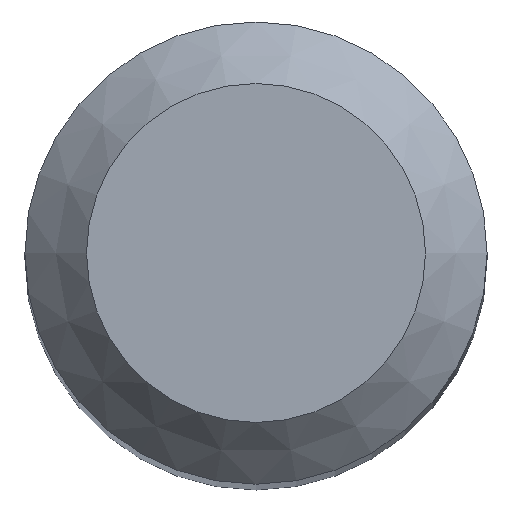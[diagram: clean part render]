
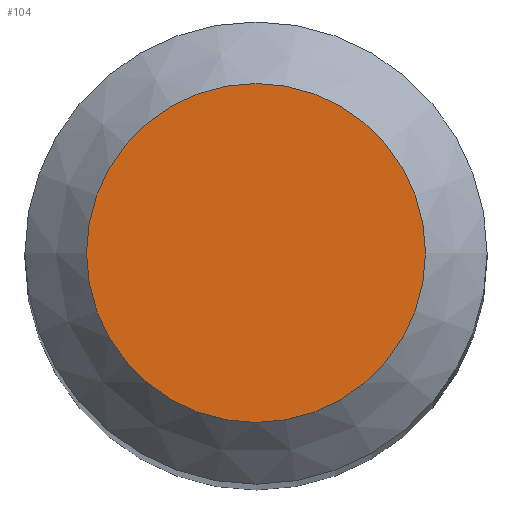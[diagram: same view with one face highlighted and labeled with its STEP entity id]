
A CAD part, top view. The second image highlights one B-rep face of the part: STEP entity #104.
In plain terms, the highlighted planar face has unit normal (0, 0, 1).
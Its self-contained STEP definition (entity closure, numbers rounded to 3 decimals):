
#88=CARTESIAN_POINT('',(2.2,0.0,90.0));
#89=DIRECTION('',(0.0,0.0,1.0));
#90=DIRECTION('',(1.0,0.0,0.0));
#91=AXIS2_PLACEMENT_3D('',#88,#89,#90);
#92=PLANE('',#91);
#93=CARTESIAN_POINT('',(-2.2,0.0,90.0));
#94=VERTEX_POINT('',#93);
#95=CARTESIAN_POINT('',(0.0,0.0,90.0));
#96=DIRECTION('',(0.0,0.0,-1.0));
#97=DIRECTION('',(-1.0,0.0,0.0));
#98=AXIS2_PLACEMENT_3D('',#95,#96,#97);
#99=CIRCLE('',#98,2.2);
#100=EDGE_CURVE('',#94,#94,#99,.T.);
#101=ORIENTED_EDGE('',*,*,#100,.F.);
#102=EDGE_LOOP('',(#101));
#103=FACE_OUTER_BOUND('',#102,.T.);
#104=ADVANCED_FACE('',(#103),#92,.T.);
